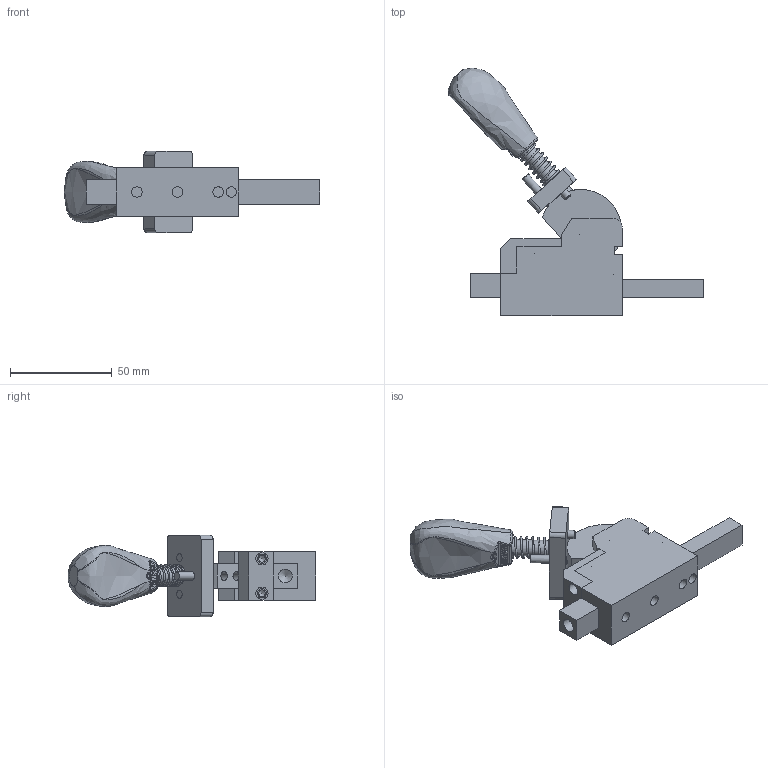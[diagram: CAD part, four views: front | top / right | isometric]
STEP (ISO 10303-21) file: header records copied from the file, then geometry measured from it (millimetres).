
FILE_DESCRIPTION(/* description */ (''),/* implementation_level */ '2;1');
FILE_NAME(/* name */ '\\192.168.1.150\pc03\Inventor\デュアルメカニズムクランプ最終\2017.10月　最新型\KCP-40ST\KCP-40ST-UNCLAMP.stp',/* time_stamp */ '2024-05-14T16:04:48+09:00',/* author */ ('Backup'),/* organization */ (''),/* preprocessor_version */ 'ST-DEVELOPER v17',/* originating_system */ 'Autodesk Inventor 2019',/* authorisation */ '');
FILE_SCHEMA (('AUTOMOTIVE_DESIGN { 1 0 10303 214 3 1 1 }'));
Length unit declared in the file: millimetre
Products named in the file (11): KCP-40ST-CLAMP; ボディ　T24; 50-30_VER4_PG2__12; カバーブロック; カム; スプリング; スライドバー　□12; ロックブロック; Φ8×40ｼｬﾌﾄ; φ4×25; φ4×25_1
Assembly tree (11 placements, depth 2):
  KCP-40ST-CLAMP
    ボディ　T24
    50-30_VER4_PG2__12
    カバーブロック
    カム
    スプリング
    スライドバー　□12
    ロックブロック
    Φ8×40ｼｬﾌﾄ
    φ4×25  x2
    φ4×25_1
Bounding box: 125.79 x 121.92 x 40 mm (x, y, z)
Volume: 88497.9 mm3; surface area: 37394.7 mm2
Topology: 11 solids, 11 shells, 255 faces, 685 edges, 457 vertices
Faces by surface type: plane 135, cylinder 82, bspline 25, cone 9, sphere 4
Full cylindrical faces by diameter (mm): 0.01 x11, 1.306 x1, 3.3 x2, 4 x6, 4.3 x4, 4.5 x2, 5.1 x1, 5.2 x3, 6 x3, 6.8 x1, 8 x2, 8.2 x1
Entity records: 19332 total; most frequent: CARTESIAN_POINT 12534, ORIENTED_EDGE 1350, DIRECTION 1310, EDGE_CURVE 675, AXIS2_PLACEMENT_3D 460, VERTEX_POINT 454, LINE 390, VECTOR 390
